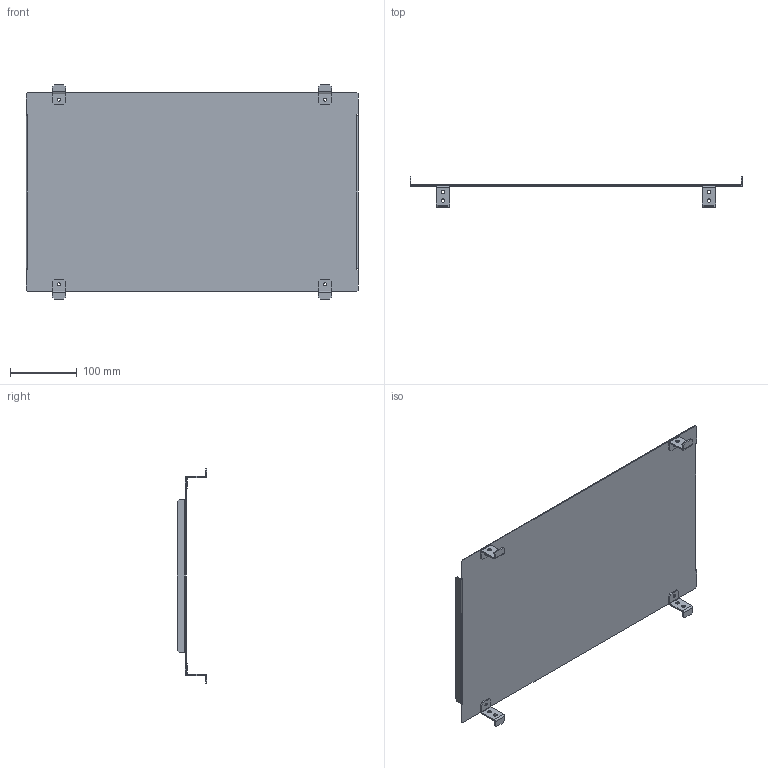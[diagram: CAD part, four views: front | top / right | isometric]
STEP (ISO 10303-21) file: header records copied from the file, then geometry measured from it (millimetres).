
FILE_DESCRIPTION(('CAx-IF Rec.Pracs.---Model Styling and Organization---1.2---2011-12-15','CAx-IF Rec.Pracs.---Geometric and Assembly Validation Properties---4.1---2014-06-16','CAx-IF Rec.Pracs.---PMI Polyline Presentation---2.0---2013-05-24'),'2;1');
FILE_NAME('R5SBPW45.stp','2021-05-06T03:03:56+03:00',(''),(''),'STEP Interface 4.4 by CT CoreTechnologie','3D_Evolution4.4 by CT CoreTechnologie','');
FILE_SCHEMA(('AUTOMOTIVE_DESIGN { 1 0 10303 214 1 1 1 1 }'));
Length unit declared in the file: millimetre
Products named in the file (3): R5SBPW45; RB.0521.00.00.0_-00; RB.0532.00.00.0_-03
Assembly tree (5 placements, depth 2):
  R5SBPW45
    RB.0521.00.00.0_-00  x4
    RB.0532.00.00.0_-03
Bounding box: 499 x 45 x 322 mm (x, y, z)
Surface area: 321048.4 mm2 (no closed solid volume)
Topology: 0 solids, 5 shells, 162 faces, 440 edges, 288 vertices
Faces by surface type: plane 106, cylinder 56
Entity records: 2906 total; most frequent: CARTESIAN_POINT 482, ORIENTED_EDGE 472, DIRECTION 468, EDGE_CURVE 236, VECTOR 184, LINE 184, VERTEX_POINT 156, AXIS2_PLACEMENT_3D 142
